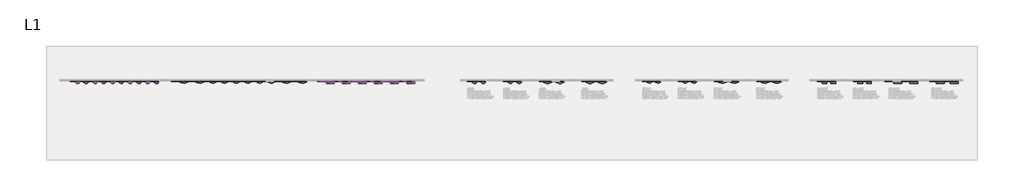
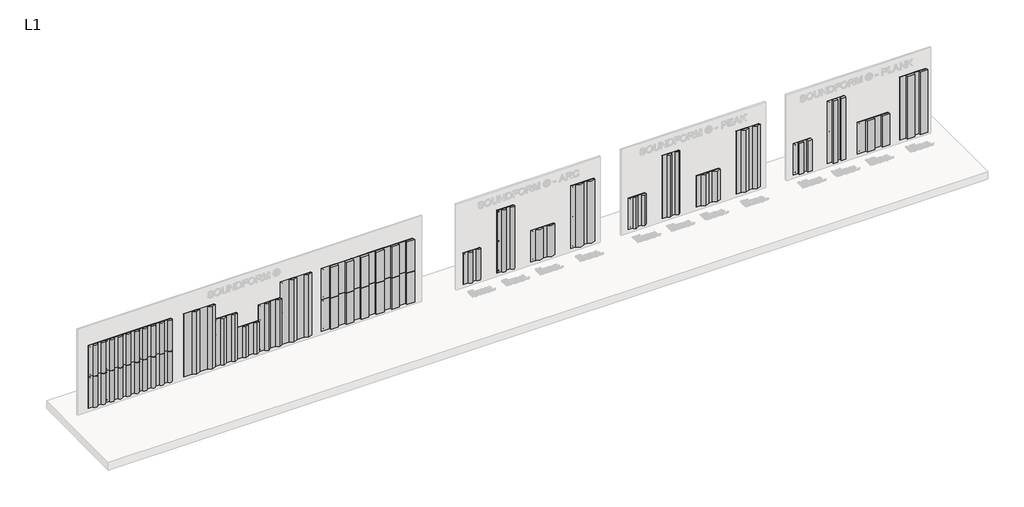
# One storey, part 17 of 17: 33 proxies.
"""IFC4 building model written with IfcOpenShell, lengths in millimetres."""

from ifc_helpers import new_model, si_unit, origin, place, context, project, spatial, transform, mapped, element, save
from components import generic_models_12418536, generic_models_cfb101af, generic_models_d3a28daf, generic_models_549c58fc, generic_models_4a7c6d2e, generic_models_f1303ad9, generic_models_7e11c711, generic_models_afdf253b, generic_models_461dd92c, generic_models_df765468, generic_models_32cf8bca, generic_models_3dfd42c7, generic_models_fa2bc863, generic_models_e5d22311, generic_models_a6065856

model = new_model("IFC4")

# Units and contexts
model_context = context("Model", 3, world=origin())
ifc_project = project(units=[si_unit("LENGTHUNIT", "METRE", prefix="MILLI")], contexts=[model_context])

# Site, building, storey
site = spatial("IfcSite", under=ifc_project)
building = spatial("IfcBuilding", under=site)
storey = spatial("IfcBuildingStorey", under=building, Name="L1", Elevation=0.0)

# Proxies
placement = place(None, origin())
generic_models_shape = generic_models_12418536(model_context)
element("IfcBuildingElementProxy", 1, Name="Arktura-SoundForm-Peak-RFA : Arktura-SoundForm-Peak-RFA", ObjectType="Arktura-SoundForm-Peak-RFA : Arktura-SoundForm-Peak-RFA", at=placement, inside=storey, context=model_context, shape_type="MappedRepresentation", body=[
    mapped(generic_models_shape, transform((7588.25, 0.0, 152.4), x_axis=(1.0, 0.0, 0.0), y_axis=(0.0, 1.0, 0.0), z_axis=(0.0, 0.0, 1.0))),
])
generic_models_2_shape = generic_models_cfb101af(model_context)
element("IfcBuildingElementProxy", 2, Name="Arktura-SoundForm-Peak-RFA : Arktura-SoundForm-Peak-RFA", ObjectType="Arktura-SoundForm-Peak-RFA : Arktura-SoundForm-Peak-RFA", at=placement, inside=storey, context=model_context, shape_type="MappedRepresentation", body=[
    mapped(generic_models_2_shape, transform((11779.25, 0.0, 152.4), x_axis=(1.0, 0.0, 0.0), y_axis=(0.0, 1.0, 0.0), z_axis=(0.0, 0.0, 1.0))),
])
generic_models_3_shape = generic_models_d3a28daf(model_context)
element("IfcBuildingElementProxy", 3, Name="Arktura-SoundForm-Peak-RFA : Arktura-SoundForm-Peak-RFA", ObjectType="Arktura-SoundForm-Peak-RFA : Arktura-SoundForm-Peak-RFA", at=placement, inside=storey, context=model_context, shape_type="MappedRepresentation", body=[
    mapped(generic_models_3_shape, transform((10306.05, 0.0, 152.4), x_axis=(1.0, 0.0, 0.0), y_axis=(0.0, 1.0, 0.0), z_axis=(0.0, 0.0, 1.0))),
])
generic_models_4_shape = generic_models_549c58fc(model_context)
element("IfcBuildingElementProxy", 4, Name="Arktura-SoundForm-Peak-RFA : Arktura-SoundForm-Peak-RFA", ObjectType="Arktura-SoundForm-Peak-RFA : Arktura-SoundForm-Peak-RFA", at=placement, inside=storey, context=model_context, shape_type="MappedRepresentation", body=[
    mapped(generic_models_4_shape, transform((-8249.2747787, 0.0, 152.4), x_axis=(1.0, 0.0, 0.0), y_axis=(0.0, 1.0, 0.0), z_axis=(0.0, 0.0, 1.0))),
])
element("IfcBuildingElementProxy", 5, Name="Arktura-SoundForm-Peak-RFA : Arktura-SoundForm-Peak-RFA", ObjectType="Arktura-SoundForm-Peak-RFA : Arktura-SoundForm-Peak-RFA", at=placement, inside=storey, context=model_context, shape_type="MappedRepresentation", body=[
    mapped(generic_models_4_shape, transform((-4693.2747787, 0.0, 152.4), x_axis=(1.0, 0.0, 0.0), y_axis=(0.0, 1.0, 0.0), z_axis=(0.0, 0.0, 1.0))),
])
generic_models_5_shape = generic_models_4a7c6d2e(model_context)
element("IfcBuildingElementProxy", 6, Name="Arktura-SoundForm-Peak-RFA : Arktura-SoundForm-Peak-RFA", ObjectType="Arktura-SoundForm-Peak-RFA : Arktura-SoundForm-Peak-RFA", at=placement, inside=storey, context=model_context, shape_type="MappedRepresentation", body=[
    mapped(generic_models_5_shape, transform((-7436.4747787, 0.0, 152.4), x_axis=(1.0, 0.0, 0.0), y_axis=(0.0, 1.0, 0.0), z_axis=(0.0, 0.0, 1.0))),
])
element("IfcBuildingElementProxy", 7, Name="Arktura-SoundForm-Peak-RFA : Arktura-SoundForm-Peak-RFA", ObjectType="Arktura-SoundForm-Peak-RFA : Arktura-SoundForm-Peak-RFA", at=placement, inside=storey, context=model_context, shape_type="MappedRepresentation", body=[
    mapped(generic_models_5_shape, transform((-5810.8747787, 0.0, 152.4), x_axis=(1.0, 0.0, 0.0), y_axis=(0.0, 1.0, 0.0), z_axis=(0.0, 0.0, 1.0))),
])
generic_models_6_shape = generic_models_f1303ad9(model_context)
element("IfcBuildingElementProxy", 8, Name="Arktura-SoundForm-Peak-RFA : Arktura-SoundForm-Peak-RFA", ObjectType="Arktura-SoundForm-Peak-RFA : Arktura-SoundForm-Peak-RFA", at=placement, inside=storey, context=model_context, shape_type="MappedRepresentation", body=[
    mapped(generic_models_6_shape, transform((-6623.6747787, 0.0, 152.4), x_axis=(1.0, 0.0, 0.0), y_axis=(0.0, 1.0, 0.0), z_axis=(0.0, 0.0, 1.0))),
])
generic_models_7_shape = generic_models_7e11c711(model_context)
element("IfcBuildingElementProxy", 9, Name="Arktura-SoundForm-Arc-RFA : Arktura-SoundForm-Arc-RFA", ObjectType="Arktura-SoundForm-Arc-RFA : Arktura-SoundForm-Arc-RFA", at=placement, inside=storey, context=model_context, shape_type="MappedRepresentation", body=[
    mapped(generic_models_7_shape, transform((1517.65, 0.0, 152.4), x_axis=(1.0, 0.0, 0.0), y_axis=(0.0, 1.0, 0.0), z_axis=(0.0, 0.0, 1.0))),
])
element("IfcBuildingElementProxy", 10, Name="Arktura-SoundForm-Arc-RFA : Arktura-SoundForm-Arc-RFA", ObjectType="Arktura-SoundForm-Arc-RFA : Arktura-SoundForm-Arc-RFA", at=placement, inside=storey, context=model_context, shape_type="MappedRepresentation", body=[
    mapped(generic_models_7_shape, transform((-12262.6600373, 0.0, 152.4), x_axis=(1.0, 0.0, 0.0), y_axis=(0.0, 1.0, 0.0), z_axis=(0.0, 0.0, 1.0))),
])
element("IfcBuildingElementProxy", 11, Name="Arktura-SoundForm-Arc-RFA : Arktura-SoundForm-Arc-RFA", ObjectType="Arktura-SoundForm-Arc-RFA : Arktura-SoundForm-Arc-RFA", at=placement, inside=storey, context=model_context, shape_type="MappedRepresentation", body=[
    mapped(generic_models_7_shape, transform((-11653.0600373, 0.0, 152.4), x_axis=(1.0, 0.0, 0.0), y_axis=(0.0, 1.0, 0.0), z_axis=(0.0, 0.0, 1.0))),
])
element("IfcBuildingElementProxy", 12, Name="Arktura-SoundForm-Arc-RFA : Arktura-SoundForm-Arc-RFA", ObjectType="Arktura-SoundForm-Arc-RFA : Arktura-SoundForm-Arc-RFA", at=placement, inside=storey, context=model_context, shape_type="MappedRepresentation", body=[
    mapped(generic_models_7_shape, transform((-11043.4600373, 0.0, 152.4), x_axis=(1.0, 0.0, 0.0), y_axis=(0.0, 1.0, 0.0), z_axis=(0.0, 0.0, 1.0))),
])
element("IfcBuildingElementProxy", 13, Name="Arktura-SoundForm-Arc-RFA : Arktura-SoundForm-Arc-RFA", ObjectType="Arktura-SoundForm-Arc-RFA : Arktura-SoundForm-Arc-RFA", at=placement, inside=storey, context=model_context, shape_type="MappedRepresentation", body=[
    mapped(generic_models_7_shape, transform((-10433.8600373, 0.0, 152.4), x_axis=(1.0, 0.0, 0.0), y_axis=(0.0, 1.0, 0.0), z_axis=(0.0, 0.0, 1.0))),
])
element("IfcBuildingElementProxy", 14, Name="Arktura-SoundForm-Arc-RFA : Arktura-SoundForm-Arc-RFA", ObjectType="Arktura-SoundForm-Arc-RFA : Arktura-SoundForm-Arc-RFA", at=placement, inside=storey, context=model_context, shape_type="MappedRepresentation", body=[
    mapped(generic_models_7_shape, transform((-9824.2600373, 0.0, 152.4), x_axis=(1.0, 0.0, 0.0), y_axis=(0.0, 1.0, 0.0), z_axis=(0.0, 0.0, 1.0))),
])
element("IfcBuildingElementProxy", 15, Name="Arktura-SoundForm-Arc-RFA : Arktura-SoundForm-Arc-RFA", ObjectType="Arktura-SoundForm-Arc-RFA : Arktura-SoundForm-Arc-RFA", at=placement, inside=storey, context=model_context, shape_type="MappedRepresentation", body=[
    mapped(generic_models_7_shape, transform((-12262.6600373, 0.0, 1371.6), x_axis=(1.0, 0.0, 0.0), y_axis=(0.0, 1.0, 0.0), z_axis=(0.0, 0.0, 1.0))),
])
element("IfcBuildingElementProxy", 16, Name="Arktura-SoundForm-Arc-RFA : Arktura-SoundForm-Arc-RFA", ObjectType="Arktura-SoundForm-Arc-RFA : Arktura-SoundForm-Arc-RFA", at=placement, inside=storey, context=model_context, shape_type="MappedRepresentation", body=[
    mapped(generic_models_7_shape, transform((-11653.0600373, 0.0, 1371.6), x_axis=(1.0, 0.0, 0.0), y_axis=(0.0, 1.0, 0.0), z_axis=(0.0, 0.0, 1.0))),
])
element("IfcBuildingElementProxy", 17, Name="Arktura-SoundForm-Arc-RFA : Arktura-SoundForm-Arc-RFA", ObjectType="Arktura-SoundForm-Arc-RFA : Arktura-SoundForm-Arc-RFA", at=placement, inside=storey, context=model_context, shape_type="MappedRepresentation", body=[
    mapped(generic_models_7_shape, transform((-11043.4600373, 0.0, 1371.6), x_axis=(1.0, 0.0, 0.0), y_axis=(0.0, 1.0, 0.0), z_axis=(0.0, 0.0, 1.0))),
])
element("IfcBuildingElementProxy", 18, Name="Arktura-SoundForm-Arc-RFA : Arktura-SoundForm-Arc-RFA", ObjectType="Arktura-SoundForm-Arc-RFA : Arktura-SoundForm-Arc-RFA", at=placement, inside=storey, context=model_context, shape_type="MappedRepresentation", body=[
    mapped(generic_models_7_shape, transform((-10433.8600373, 0.0, 1371.6), x_axis=(1.0, 0.0, 0.0), y_axis=(0.0, 1.0, 0.0), z_axis=(0.0, 0.0, 1.0))),
])
element("IfcBuildingElementProxy", 19, Name="Arktura-SoundForm-Arc-RFA : Arktura-SoundForm-Arc-RFA", ObjectType="Arktura-SoundForm-Arc-RFA : Arktura-SoundForm-Arc-RFA", at=placement, inside=storey, context=model_context, shape_type="MappedRepresentation", body=[
    mapped(generic_models_7_shape, transform((-9824.2600373, 0.0, 1371.6), x_axis=(1.0, 0.0, 0.0), y_axis=(0.0, 1.0, 0.0), z_axis=(0.0, 0.0, 1.0))),
])
generic_models_8_shape = generic_models_afdf253b(model_context)
element("IfcBuildingElementProxy", 20, Name="Arktura-SoundForm-Arc-RFA : Arktura-SoundForm-Arc-RFA", ObjectType="Arktura-SoundForm-Arc-RFA : Arktura-SoundForm-Arc-RFA", at=placement, inside=storey, context=model_context, shape_type="MappedRepresentation", body=[
    mapped(generic_models_8_shape, transform((2762.25, 0.0, 152.4), x_axis=(1.0, 0.0, 0.0), y_axis=(0.0, 1.0, 0.0), z_axis=(0.0, 0.0, 1.0))),
])
generic_models_9_shape = generic_models_461dd92c(model_context)
element("IfcBuildingElementProxy", 21, Name="Arktura-SoundForm-Arc-RFA : Arktura-SoundForm-Arc-RFA", ObjectType="Arktura-SoundForm-Arc-RFA : Arktura-SoundForm-Arc-RFA", at=placement, inside=storey, context=model_context, shape_type="MappedRepresentation", body=[
    mapped(generic_models_9_shape, transform((4235.45, 0.0, 152.4), x_axis=(1.0, 0.0, 0.0), y_axis=(0.0, 1.0, 0.0), z_axis=(0.0, 0.0, 1.0))),
])
generic_models_10_shape = generic_models_df765468(model_context)
element("IfcBuildingElementProxy", 22, Name="Arktura-SoundForm-Arc-RFA : Arktura-SoundForm-Arc-RFA", ObjectType="Arktura-SoundForm-Arc-RFA : Arktura-SoundForm-Arc-RFA", at=placement, inside=storey, context=model_context, shape_type="MappedRepresentation", body=[
    mapped(generic_models_10_shape, transform((5708.65, 0.0, 152.4), x_axis=(1.0, 0.0, 0.0), y_axis=(0.0, 1.0, 0.0), z_axis=(0.0, 0.0, 1.0))),
])
generic_models_11_shape = generic_models_32cf8bca(model_context)
element("IfcBuildingElementProxy", 23, Name="Arktura-SoundForm-Plank-RFA : Arktura-SoundForm-Plank-RFA", ObjectType="Arktura-SoundForm-Plank-RFA : Arktura-SoundForm-Plank-RFA", at=placement, inside=storey, context=model_context, shape_type="MappedRepresentation", body=[
    mapped(generic_models_11_shape, transform((16516.35, 0.0, 152.4), x_axis=(1.0, 0.0, 0.0), y_axis=(0.0, 1.0, 0.0), z_axis=(0.0, 0.0, 1.0))),
])
element("IfcBuildingElementProxy", 24, Name="Arktura-SoundForm-Plank-RFA : Arktura-SoundForm-Plank-RFA", ObjectType="Arktura-SoundForm-Plank-RFA : Arktura-SoundForm-Plank-RFA", at=placement, inside=storey, context=model_context, shape_type="MappedRepresentation", body=[
    mapped(generic_models_11_shape, transform((-3188.3247966, 0.0, 1371.6), x_axis=(1.0, 0.0, 0.0), y_axis=(0.0, 1.0, 0.0), z_axis=(0.0, 0.0, 1.0))),
])
element("IfcBuildingElementProxy", 25, Name="Arktura-SoundForm-Plank-RFA : Arktura-SoundForm-Plank-RFA", ObjectType="Arktura-SoundForm-Plank-RFA : Arktura-SoundForm-Plank-RFA", at=placement, inside=storey, context=model_context, shape_type="MappedRepresentation", body=[
    mapped(generic_models_11_shape, transform((-2070.7247966, 0.0, 1371.6), x_axis=(1.0, 0.0, 0.0), y_axis=(0.0, 1.0, 0.0), z_axis=(0.0, 0.0, 1.0))),
])
element("IfcBuildingElementProxy", 26, Name="Arktura-SoundForm-Plank-RFA : Arktura-SoundForm-Plank-RFA", ObjectType="Arktura-SoundForm-Plank-RFA : Arktura-SoundForm-Plank-RFA", at=placement, inside=storey, context=model_context, shape_type="MappedRepresentation", body=[
    mapped(generic_models_11_shape, transform((-953.1247966, 0.0, 1371.6), x_axis=(1.0, 0.0, 0.0), y_axis=(0.0, 1.0, 0.0), z_axis=(0.0, 0.0, 1.0))),
])
element("IfcBuildingElementProxy", 27, Name="Arktura-SoundForm-Plank-RFA : Arktura-SoundForm-Plank-RFA", ObjectType="Arktura-SoundForm-Plank-RFA : Arktura-SoundForm-Plank-RFA", at=placement, inside=storey, context=model_context, shape_type="MappedRepresentation", body=[
    mapped(generic_models_11_shape, transform((-3188.3247966, 0.0, 152.4), x_axis=(1.0, 0.0, 0.0), y_axis=(0.0, 1.0, 0.0), z_axis=(0.0, 0.0, 1.0))),
])
element("IfcBuildingElementProxy", 28, Name="Arktura-SoundForm-Plank-RFA : Arktura-SoundForm-Plank-RFA", ObjectType="Arktura-SoundForm-Plank-RFA : Arktura-SoundForm-Plank-RFA", at=placement, inside=storey, context=model_context, shape_type="MappedRepresentation", body=[
    mapped(generic_models_11_shape, transform((-2070.7247966, 0.0, 152.4), x_axis=(1.0, 0.0, 0.0), y_axis=(0.0, 1.0, 0.0), z_axis=(0.0, 0.0, 1.0))),
])
element("IfcBuildingElementProxy", 29, Name="Arktura-SoundForm-Plank-RFA : Arktura-SoundForm-Plank-RFA", ObjectType="Arktura-SoundForm-Plank-RFA : Arktura-SoundForm-Plank-RFA", at=placement, inside=storey, context=model_context, shape_type="MappedRepresentation", body=[
    mapped(generic_models_11_shape, transform((-953.1247966, 0.0, 152.4), x_axis=(1.0, 0.0, 0.0), y_axis=(0.0, 1.0, 0.0), z_axis=(0.0, 0.0, 1.0))),
])
generic_models_12_shape = generic_models_3dfd42c7(model_context)
element("IfcBuildingElementProxy", 30, Name="Arktura-SoundForm-Plank-RFA : Arktura-SoundForm-Plank-RFA", ObjectType="Arktura-SoundForm-Plank-RFA : Arktura-SoundForm-Plank-RFA", at=placement, inside=storey, context=model_context, shape_type="MappedRepresentation", body=[
    mapped(generic_models_12_shape, transform((13658.85, 0.0, 152.4), x_axis=(1.0, 0.0, 0.0), y_axis=(0.0, 1.0, 0.0), z_axis=(0.0, 0.0, 1.0))),
])
generic_models_13_shape = generic_models_fa2bc863(model_context)
element("IfcBuildingElementProxy", 31, Name="Arktura-SoundForm-Plank-RFA : Arktura-SoundForm-Plank-RFA", ObjectType="Arktura-SoundForm-Plank-RFA : Arktura-SoundForm-Plank-RFA", at=placement, inside=storey, context=model_context, shape_type="MappedRepresentation", body=[
    mapped(generic_models_13_shape, transform((14903.45, 0.0, 152.4), x_axis=(1.0, 0.0, 0.0), y_axis=(0.0, 1.0, 0.0), z_axis=(0.0, 0.0, 1.0))),
])
generic_models_14_shape = generic_models_e5d22311(model_context)
element("IfcBuildingElementProxy", 32, Name="Arktura-SoundForm-Plank-RFA : Arktura-SoundForm-Plank-RFA", ObjectType="Arktura-SoundForm-Plank-RFA : Arktura-SoundForm-Plank-RFA", at=placement, inside=storey, context=model_context, shape_type="MappedRepresentation", body=[
    mapped(generic_models_14_shape, transform((17913.35, 0.0, 152.4), x_axis=(1.0, 0.0, 0.0), y_axis=(0.0, 1.0, 0.0), z_axis=(0.0, 0.0, 1.0))),
])
generic_models_15_shape = generic_models_a6065856(model_context)
element("IfcBuildingElementProxy", 33, Name="Arktura-SoundForm-Peak-RFA : Arktura-SoundForm-Peak-RFA", ObjectType="Arktura-SoundForm-Peak-RFA : Arktura-SoundForm-Peak-RFA", at=placement, inside=storey, context=model_context, shape_type="MappedRepresentation", body=[
    mapped(generic_models_15_shape, transform((8832.85, 0.0, 152.4), x_axis=(1.0, 0.0, 0.0), y_axis=(0.0, 1.0, 0.0), z_axis=(0.0, 0.0, 1.0))),
])

save(model, "model.ifc")
